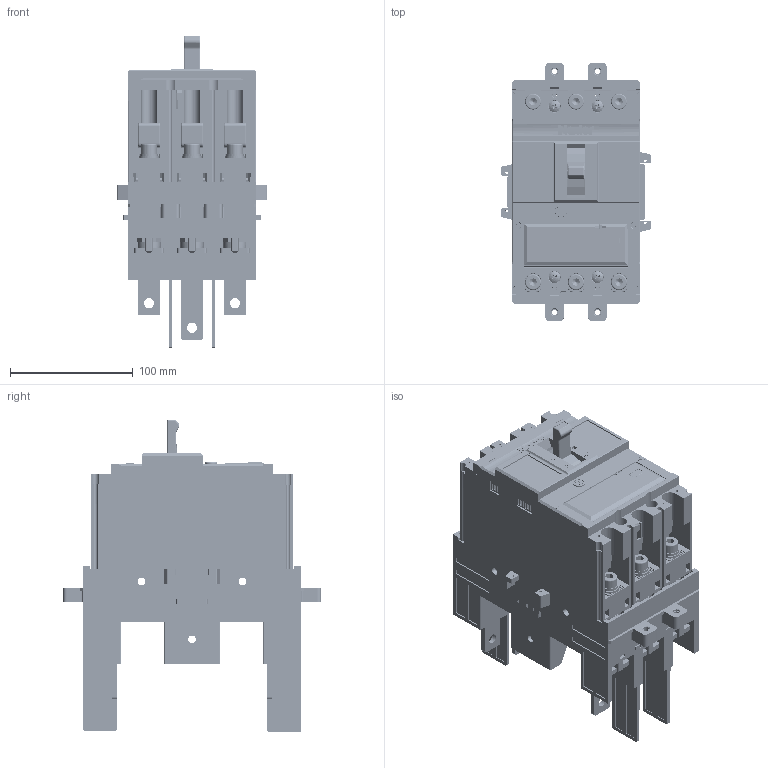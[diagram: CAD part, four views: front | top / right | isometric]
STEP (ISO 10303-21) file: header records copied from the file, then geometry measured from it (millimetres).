
FILE_DESCRIPTION (( 'STEP AP203' ), '1' );
FILE_NAME ('NDM5E-250 3P+插入式板后接线.STEP', '2020-01-14T06:22:13', ( '' ), ( '' ), 'SwSTEP 2.0', 'SolidWorks 2018', '' );
FILE_SCHEMA (( 'CONFIG_CONTROL_DESIGN' ));
Products named in the file (1): NDM5E-250 3P+插入式板后接线
Bounding box: 122 x 210 x 254.1 mm (x, y, z)
Surface area: 958664.3 mm2 (no closed solid volume)
Topology: 0 solids, 665 shells, 36465 faces, 99206 edges, 64806 vertices
Faces by surface type: plane 20221, cylinder 9729, bspline 4019, cone 1284, torus 999, sphere 213
Entity records: 1398423 total; most frequent: CARTESIAN_POINT 494099, ORIENTED_EDGE 196316, DIRECTION 175038, EDGE_CURVE 98926, VECTOR 65652, LINE 65652, VERTEX_POINT 64751, AXIS2_PLACEMENT_3D 54693
